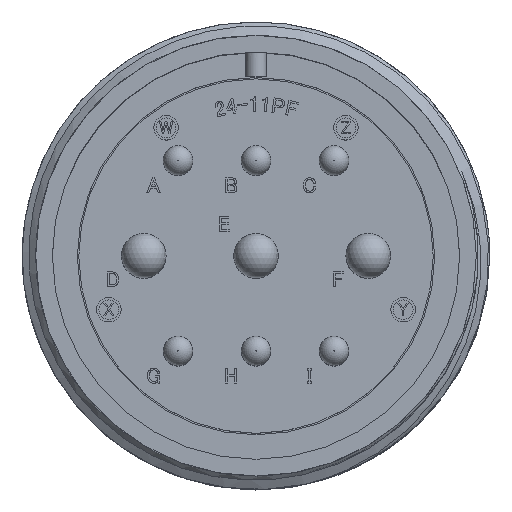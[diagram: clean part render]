
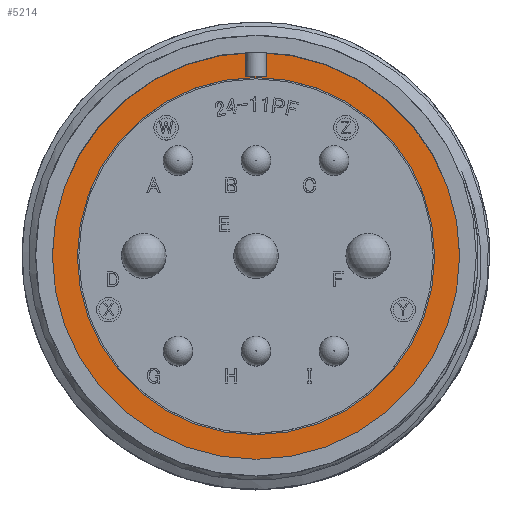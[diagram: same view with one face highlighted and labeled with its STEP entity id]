
A CAD part, top view. The second image highlights one B-rep face of the part: STEP entity #5214.
In plain terms, the highlighted planar face has unit normal (0, 0, 1).
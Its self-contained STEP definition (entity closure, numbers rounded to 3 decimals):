
#1047 = DIRECTION ( 'NONE',  ( 1., 0., 0. ) ) ;
#1105 = EDGE_LOOP ( 'NONE', ( #3516 ) ) ;
#3516 = ORIENTED_EDGE ( 'NONE', *, *, #6584, .F. ) ;
#3551 = FACE_OUTER_BOUND ( 'NONE', #5656, .T. ) ;
#4359 = CIRCLE ( 'NONE', #9863, 16.575 ) ;
#4542 = DIRECTION ( 'NONE',  ( 1., 0., 0. ) ) ;
#5214 = ADVANCED_FACE ( 'NONE', ( #9652, #3551 ), #10805, .F. ) ;
#5656 = EDGE_LOOP ( 'NONE', ( #6763 ) ) ;
#6584 = EDGE_CURVE ( 'NONE', #15333, #15333, #24751, .T. ) ;
#6763 = ORIENTED_EDGE ( 'NONE', *, *, #15709, .T. ) ;
#9652 = FACE_BOUND ( 'NONE', #1105, .T. ) ;
#9863 = AXIS2_PLACEMENT_3D ( 'NONE', #20026, #10819, #1047 ) ;
#10388 = DIRECTION ( 'NONE',  ( -1., 0., 0. ) ) ;
#10805 = PLANE ( 'NONE',  #19113 ) ;
#10819 = DIRECTION ( 'NONE',  ( 0., 0., 1. ) ) ;
#11605 = AXIS2_PLACEMENT_3D ( 'NONE', #21489, #14499, #4542 ) ;
#11724 = CARTESIAN_POINT ( 'NONE',  ( 14.54, 0., -19.18 ) ) ;
#12921 = CARTESIAN_POINT ( 'NONE',  ( 0., 16.575, -19.18 ) ) ;
#13414 = VERTEX_POINT ( 'NONE', #16906 ) ;
#14499 = DIRECTION ( 'NONE',  ( 0., 0., 1. ) ) ;
#15333 = VERTEX_POINT ( 'NONE', #11724 ) ;
#15709 = EDGE_CURVE ( 'NONE', #13414, #13414, #4359, .T. ) ;
#16906 = CARTESIAN_POINT ( 'NONE',  ( 16.575, 0., -19.18 ) ) ;
#19113 = AXIS2_PLACEMENT_3D ( 'NONE', #12921, #20222, #10388 ) ;
#20026 = CARTESIAN_POINT ( 'NONE',  ( 0., 0., -19.18 ) ) ;
#20222 = DIRECTION ( 'NONE',  ( 0., 0., -1. ) ) ;
#21489 = CARTESIAN_POINT ( 'NONE',  ( 0., 0., -19.18 ) ) ;
#24751 = CIRCLE ( 'NONE', #11605, 14.54 ) ;
